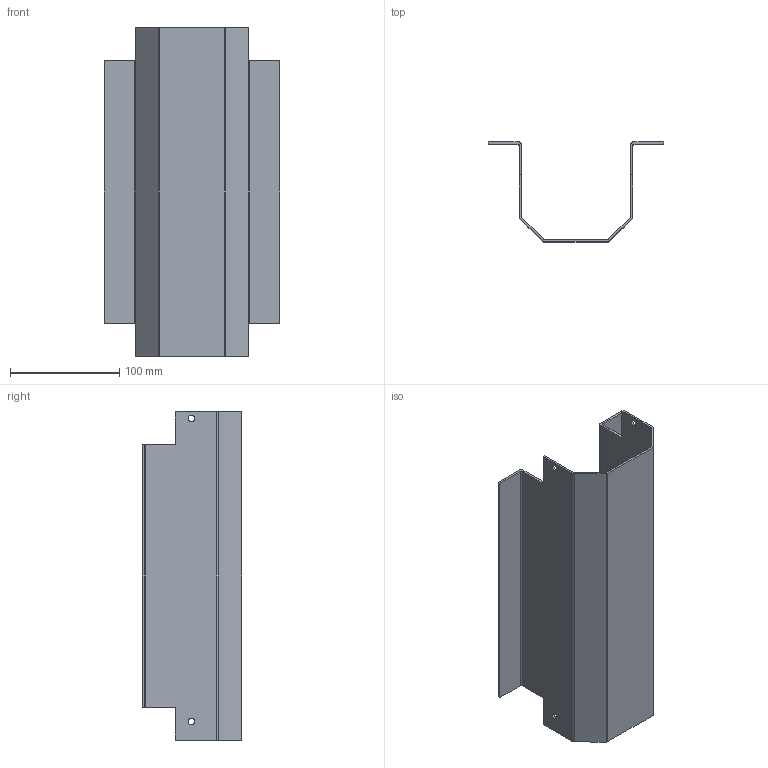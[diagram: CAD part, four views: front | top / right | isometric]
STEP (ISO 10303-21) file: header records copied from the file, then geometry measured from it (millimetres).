
FILE_DESCRIPTION (( 'STEP AP203' ), '1' );
FILE_NAME ('084.801.029.STEP', '2013-01-29T09:41:30', ( 'Alusic' ), ( 'Alusic' ), 'SwSTEP 2.0', 'SolidWorks 2011', '' );
FILE_SCHEMA (( 'CONFIG_CONTROL_DESIGN' ));
Length unit declared in the file: millimetre
Products named in the file (1): 084.801.029
Bounding box: 160 x 91 x 300 mm (x, y, z)
Volume: 173334.9 mm3; surface area: 175548.6 mm2
Topology: 1 solids, 1 shells, 46 faces, 132 edges, 88 vertices
Faces by surface type: plane 26, cylinder 20
Entity records: 1609 total; most frequent: CARTESIAN_POINT 267, DIRECTION 266, ORIENTED_EDGE 264, EDGE_CURVE 132, LINE 92, VECTOR 92, VERTEX_POINT 88, AXIS2_PLACEMENT_3D 87
